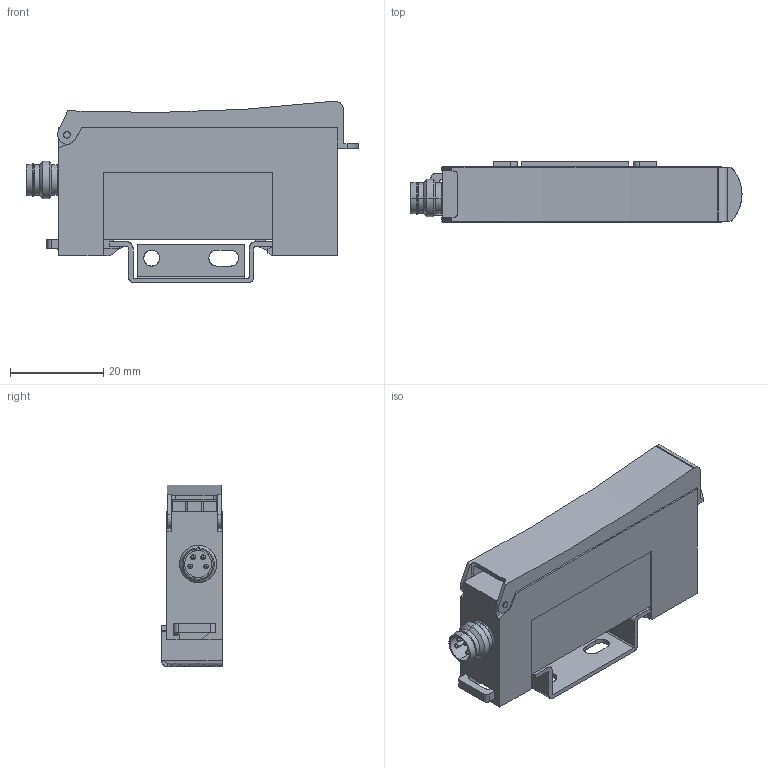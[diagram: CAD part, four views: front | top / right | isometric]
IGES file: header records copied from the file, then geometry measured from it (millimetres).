
Start section: Comment
Global section: file name: FVDK 12_S35A.igs; native system:  By Spatial Corp.; preprocessor: XPlus GENERIC/IGES 3.0; author: Author; organization: Title; date: 20040804.173245; units: inch
Bounding box: 71.36 x 13.05 x 39.04 mm (x, y, z)
Surface area: 10330.9 mm2 (no closed solid volume)
Topology: 0 solids, 0 shells, 312 faces, 1604 edges, 1584 vertices
Faces by surface type: bspline 312
